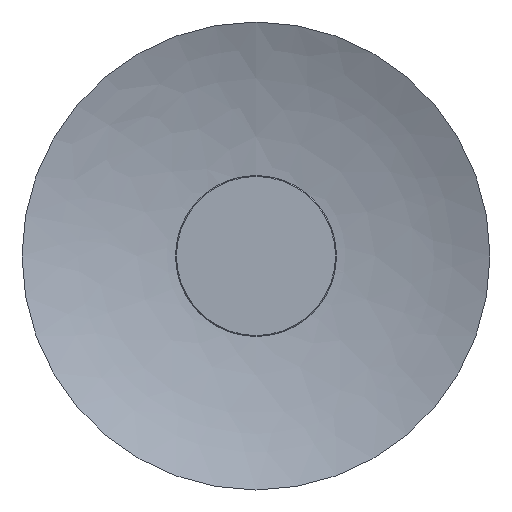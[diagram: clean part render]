
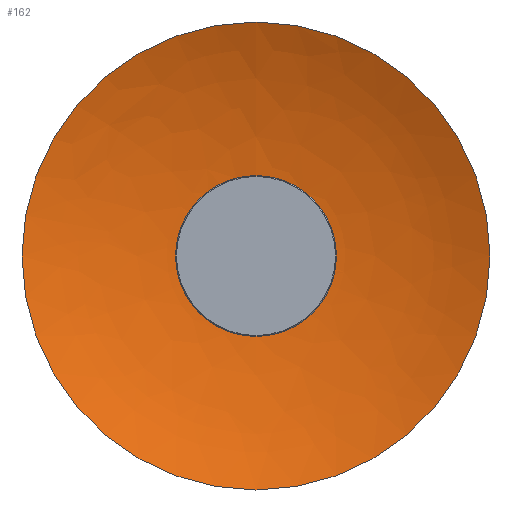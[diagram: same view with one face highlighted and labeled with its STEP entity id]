
A CAD part, front view. The second image highlights one B-rep face of the part: STEP entity #162.
In plain terms, the highlighted free-form (B-spline) face has degree [2, 2] with [3, 9] control points.
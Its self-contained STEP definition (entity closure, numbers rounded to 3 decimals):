
#16=(
BOUNDED_SURFACE()
B_SPLINE_SURFACE(2,2,((#294,#295,#296,#297,#298,#299,#300,#301,#302),(#303,
#304,#305,#306,#307,#308,#309,#310,#311),(#312,#313,#314,#315,#316,#317,
#318,#319,#320)),.UNSPECIFIED.,.F.,.T.,.F.)
B_SPLINE_SURFACE_WITH_KNOTS((3,3),(3,2,2,2,3),(1.174,1.618),
(-3.142,-1.571,0.,1.571,3.142),
 .UNSPECIFIED.)
GEOMETRIC_REPRESENTATION_ITEM()
RATIONAL_B_SPLINE_SURFACE(((1.,0.707,1.,0.707,1.,
0.707,1.,0.707,1.),(0.975,0.69,
0.975,0.69,0.975,0.69,0.975,
0.69,0.975),(1.,0.707,1.,0.707,
1.,0.707,1.,0.707,1.)))
REPRESENTATION_ITEM('')
SURFACE()
);
#33=FACE_OUTER_BOUND('',#43,.T.);
#43=EDGE_LOOP('',(#118,#119,#120,#121,#122));
#55=CIRCLE('',#204,518.91);
#56=CIRCLE('',#205,225.);
#57=CIRCLE('',#206,225.);
#58=CIRCLE('',#207,225.);
#72=VERTEX_POINT('',#321);
#73=VERTEX_POINT('',#322);
#74=VERTEX_POINT('',#324);
#75=VERTEX_POINT('',#326);
#91=EDGE_CURVE('',#72,#73,#55,.T.);
#92=EDGE_CURVE('',#74,#73,#56,.T.);
#93=EDGE_CURVE('',#75,#74,#57,.T.);
#94=EDGE_CURVE('',#73,#75,#58,.T.);
#118=ORIENTED_EDGE('',*,*,#91,.T.);
#119=ORIENTED_EDGE('',*,*,#92,.F.);
#120=ORIENTED_EDGE('',*,*,#93,.F.);
#121=ORIENTED_EDGE('',*,*,#94,.F.);
#122=ORIENTED_EDGE('',*,*,#91,.F.);
#162=ADVANCED_FACE('',(#33),#16,.T.);
#204=AXIS2_PLACEMENT_3D('',#323,#241,#242);
#205=AXIS2_PLACEMENT_3D('',#325,#243,#244);
#206=AXIS2_PLACEMENT_3D('',#327,#245,#246);
#207=AXIS2_PLACEMENT_3D('',#328,#247,#248);
#241=DIRECTION('center_axis',(1.,0.,0.));
#242=DIRECTION('ref_axis',(0.,0.,1.));
#243=DIRECTION('center_axis',(0.,1.,0.));
#244=DIRECTION('ref_axis',(-1.,0.,0.));
#245=DIRECTION('center_axis',(0.,1.,0.));
#246=DIRECTION('ref_axis',(-1.,0.,0.));
#247=DIRECTION('center_axis',(0.,1.,0.));
#248=DIRECTION('ref_axis',(-1.,0.,0.));
#294=CARTESIAN_POINT('Ctrl Pts',(0.,20.759,
225.));
#295=CARTESIAN_POINT('Ctrl Pts',(225.,20.759,225.));
#296=CARTESIAN_POINT('Ctrl Pts',(225.,20.759,0.));
#297=CARTESIAN_POINT('Ctrl Pts',(225.,20.759,-225.));
#298=CARTESIAN_POINT('Ctrl Pts',(0.,20.759,-225.));
#299=CARTESIAN_POINT('Ctrl Pts',(-225.,20.759,-225.));
#300=CARTESIAN_POINT('Ctrl Pts',(-225.,20.759,0.));
#301=CARTESIAN_POINT('Ctrl Pts',(-225.,20.759,225.));
#302=CARTESIAN_POINT('Ctrl Pts',(0.,20.759,
225.));
#303=CARTESIAN_POINT('Ctrl Pts',(0.,65.998,
116.98));
#304=CARTESIAN_POINT('Ctrl Pts',(116.98,65.998,116.98));
#305=CARTESIAN_POINT('Ctrl Pts',(116.98,65.998,0.));
#306=CARTESIAN_POINT('Ctrl Pts',(116.98,65.998,-116.98));
#307=CARTESIAN_POINT('Ctrl Pts',(0.,65.998,
-116.98));
#308=CARTESIAN_POINT('Ctrl Pts',(-116.98,65.998,-116.98));
#309=CARTESIAN_POINT('Ctrl Pts',(-116.98,65.998,0.));
#310=CARTESIAN_POINT('Ctrl Pts',(-116.98,65.998,116.98));
#311=CARTESIAN_POINT('Ctrl Pts',(0.,65.998,
116.98));
#312=CARTESIAN_POINT('Ctrl Pts',(0.,60.457,
0.));
#313=CARTESIAN_POINT('Ctrl Pts',(0.,60.457,
0.));
#314=CARTESIAN_POINT('Ctrl Pts',(0.,60.457,
0.));
#315=CARTESIAN_POINT('Ctrl Pts',(0.,60.457,
0.));
#316=CARTESIAN_POINT('Ctrl Pts',(0.,60.457,
0.));
#317=CARTESIAN_POINT('Ctrl Pts',(0.,60.457,
0.));
#318=CARTESIAN_POINT('Ctrl Pts',(0.,60.457,
0.));
#319=CARTESIAN_POINT('Ctrl Pts',(0.,60.457,
0.));
#320=CARTESIAN_POINT('Ctrl Pts',(0.,60.457,
0.));
#321=CARTESIAN_POINT('',(0.,60.457,0.));
#322=CARTESIAN_POINT('',(0.,20.759,225.));
#323=CARTESIAN_POINT('Origin',(0.,-457.872,24.551));
#324=CARTESIAN_POINT('',(-225.,20.759,0.));
#325=CARTESIAN_POINT('Origin',(0.,20.759,0.));
#326=CARTESIAN_POINT('',(225.,20.759,0.));
#327=CARTESIAN_POINT('Origin',(0.,20.759,0.));
#328=CARTESIAN_POINT('Origin',(0.,20.759,0.));
